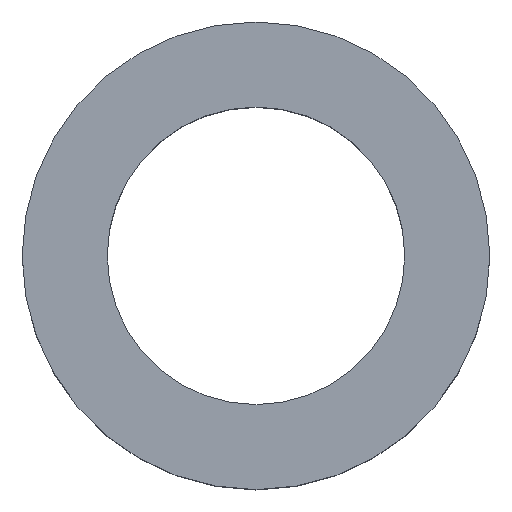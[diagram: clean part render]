
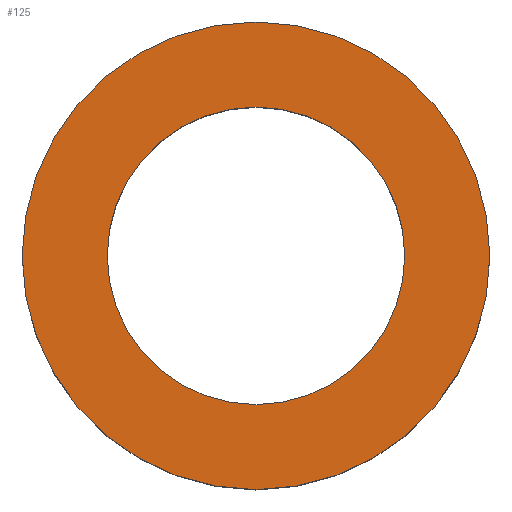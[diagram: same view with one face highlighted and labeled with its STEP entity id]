
A CAD part, top view. The second image highlights one B-rep face of the part: STEP entity #125.
In plain terms, the highlighted planar face has unit normal (0, 0, 1).
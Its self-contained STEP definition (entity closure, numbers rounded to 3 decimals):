
#3 = CARTESIAN_POINT ( 'NONE',  ( 0., 0., 2.5 ) ) ;
#10 = CIRCLE ( 'NONE', #80, 2.75 ) ;
#19 = DIRECTION ( 'NONE',  ( 0., 0., 1. ) ) ;
#40 = DIRECTION ( 'NONE',  ( 0., 0., 1. ) ) ;
#41 = AXIS2_PLACEMENT_3D ( 'NONE', #201, #40, #110 ) ;
#47 = DIRECTION ( 'NONE',  ( 0., 0., 1. ) ) ;
#50 = EDGE_CURVE ( 'NONE', #193, #65, #124, .T. ) ;
#54 = CIRCLE ( 'NONE', #185, 1.75 ) ;
#55 = CARTESIAN_POINT ( 'NONE',  ( 2.75, 0., 2.5 ) ) ;
#58 = DIRECTION ( 'NONE',  ( 1., 0., 0. ) ) ;
#61 = CARTESIAN_POINT ( 'NONE',  ( -2.75, 0., 2.5 ) ) ;
#65 = VERTEX_POINT ( 'NONE', #182 ) ;
#73 = CIRCLE ( 'NONE', #95, 2.75 ) ;
#80 = AXIS2_PLACEMENT_3D ( 'NONE', #188, #132, #206 ) ;
#86 = ORIENTED_EDGE ( 'NONE', *, *, #207, .F. ) ;
#94 = CARTESIAN_POINT ( 'NONE',  ( 1.75, 0., 2.5 ) ) ;
#95 = AXIS2_PLACEMENT_3D ( 'NONE', #3, #19, #58 ) ;
#98 = CARTESIAN_POINT ( 'NONE',  ( 0., 0., 2.5 ) ) ;
#100 = ORIENTED_EDGE ( 'NONE', *, *, #133, .T. ) ;
#101 = VERTEX_POINT ( 'NONE', #55 ) ;
#105 = AXIS2_PLACEMENT_3D ( 'NONE', #127, #147, #111 ) ;
#107 = FACE_OUTER_BOUND ( 'NONE', #122, .T. ) ;
#110 = DIRECTION ( 'NONE',  ( 1., 0., 0. ) ) ;
#111 = DIRECTION ( 'NONE',  ( 1., 0., 0. ) ) ;
#122 = EDGE_LOOP ( 'NONE', ( #208, #100 ) ) ;
#124 = CIRCLE ( 'NONE', #105, 1.75 ) ;
#125 = ADVANCED_FACE ( 'NONE', ( #107, #159 ), #213, .T. ) ;
#127 = CARTESIAN_POINT ( 'NONE',  ( 0., 0., 2.5 ) ) ;
#132 = DIRECTION ( 'NONE',  ( 0., 0., 1. ) ) ;
#133 = EDGE_CURVE ( 'NONE', #101, #142, #73, .T. ) ;
#140 = ORIENTED_EDGE ( 'NONE', *, *, #50, .F. ) ;
#142 = VERTEX_POINT ( 'NONE', #61 ) ;
#147 = DIRECTION ( 'NONE',  ( 0., 0., 1. ) ) ;
#157 = EDGE_CURVE ( 'NONE', #142, #101, #10, .T. ) ;
#159 = FACE_BOUND ( 'NONE', #214, .T. ) ;
#167 = DIRECTION ( 'NONE',  ( 1., 0., 0. ) ) ;
#182 = CARTESIAN_POINT ( 'NONE',  ( -1.75, 0., 2.5 ) ) ;
#185 = AXIS2_PLACEMENT_3D ( 'NONE', #98, #47, #167 ) ;
#188 = CARTESIAN_POINT ( 'NONE',  ( 0., 0., 2.5 ) ) ;
#193 = VERTEX_POINT ( 'NONE', #94 ) ;
#201 = CARTESIAN_POINT ( 'NONE',  ( 0., 0., 2.5 ) ) ;
#206 = DIRECTION ( 'NONE',  ( 1., 0., 0. ) ) ;
#207 = EDGE_CURVE ( 'NONE', #65, #193, #54, .T. ) ;
#208 = ORIENTED_EDGE ( 'NONE', *, *, #157, .T. ) ;
#213 = PLANE ( 'NONE',  #41 ) ;
#214 = EDGE_LOOP ( 'NONE', ( #86, #140 ) ) ;
